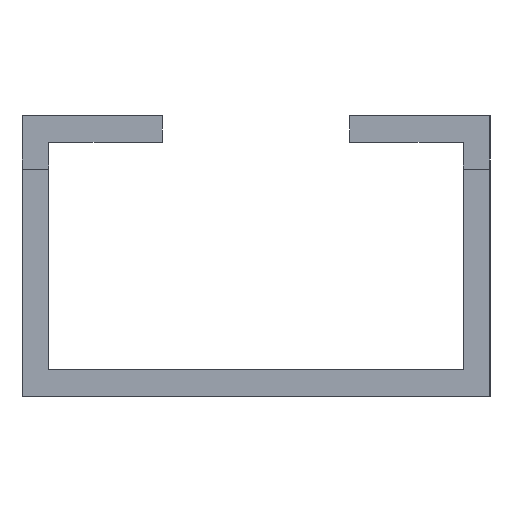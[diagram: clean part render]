
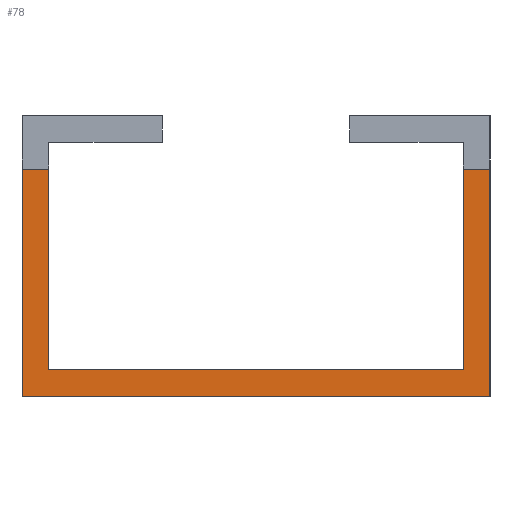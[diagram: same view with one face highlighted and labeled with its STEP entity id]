
A CAD part, left-side view. The second image highlights one B-rep face of the part: STEP entity #78.
In plain terms, the highlighted planar face has unit normal (-1, 0, 0).
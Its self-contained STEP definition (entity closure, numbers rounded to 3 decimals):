
#78 = ADVANCED_FACE( '', ( #155 ), #156, .F. );
#155 = FACE_OUTER_BOUND( '', #228, .T. );
#156 = PLANE( '', #229 );
#228 = EDGE_LOOP( '', ( #395, #396, #397, #398, #399, #400, #401, #402 ) );
#229 = AXIS2_PLACEMENT_3D( '', #403, #404, #405 );
#395 = ORIENTED_EDGE( '', *, *, #481, .F. );
#396 = ORIENTED_EDGE( '', *, *, #527, .F. );
#397 = ORIENTED_EDGE( '', *, *, #520, .F. );
#398 = ORIENTED_EDGE( '', *, *, #488, .F. );
#399 = ORIENTED_EDGE( '', *, *, #518, .F. );
#400 = ORIENTED_EDGE( '', *, *, #528, .F. );
#401 = ORIENTED_EDGE( '', *, *, #492, .F. );
#402 = ORIENTED_EDGE( '', *, *, #503, .F. );
#403 = CARTESIAN_POINT( '', ( -541., 0., 0. ) );
#404 = DIRECTION( '', ( 1., 0., 0. ) );
#405 = DIRECTION( '', ( 0., 0., -1. ) );
#481 = EDGE_CURVE( '', #581, #583, #584, .T. );
#488 = EDGE_CURVE( '', #593, #595, #596, .T. );
#492 = EDGE_CURVE( '', #601, #602, #603, .T. );
#503 = EDGE_CURVE( '', #583, #601, #619, .T. );
#518 = EDGE_CURVE( '', #636, #593, #638, .T. );
#520 = EDGE_CURVE( '', #595, #640, #641, .T. );
#527 = EDGE_CURVE( '', #640, #581, #649, .T. );
#528 = EDGE_CURVE( '', #602, #636, #650, .T. );
#581 = VERTEX_POINT( '', #723 );
#583 = VERTEX_POINT( '', #726 );
#584 = LINE( '', #727, #728 );
#593 = VERTEX_POINT( '', #741 );
#595 = VERTEX_POINT( '', #744 );
#596 = LINE( '', #745, #746 );
#601 = VERTEX_POINT( '', #753 );
#602 = VERTEX_POINT( '', #754 );
#603 = LINE( '', #755, #756 );
#619 = LINE( '', #780, #781 );
#636 = VERTEX_POINT( '', #807 );
#638 = LINE( '', #810, #811 );
#640 = VERTEX_POINT( '', #813 );
#641 = LINE( '', #814, #815 );
#649 = LINE( '', #827, #828 );
#650 = LINE( '', #829, #830 );
#723 = CARTESIAN_POINT( '', ( -541., 17.5, 17. ) );
#726 = CARTESIAN_POINT( '', ( -541., 15.5, 17. ) );
#727 = CARTESIAN_POINT( '', ( -541., 0., 17. ) );
#728 = VECTOR( '', #861, 1000. );
#741 = CARTESIAN_POINT( '', ( -541., -17.5, 17. ) );
#744 = CARTESIAN_POINT( '', ( -541., -17.5, 0. ) );
#745 = CARTESIAN_POINT( '', ( -541., -17.5, 21. ) );
#746 = VECTOR( '', #867, 1000. );
#753 = CARTESIAN_POINT( '', ( -541., 15.5, 2. ) );
#754 = CARTESIAN_POINT( '', ( -541., -15.5, 2. ) );
#755 = CARTESIAN_POINT( '', ( -541., 15.5, 2. ) );
#756 = VECTOR( '', #870, 1000. );
#780 = CARTESIAN_POINT( '', ( -541., 15.5, 19. ) );
#781 = VECTOR( '', #879, 1000. );
#807 = CARTESIAN_POINT( '', ( -541., -15.5, 17. ) );
#810 = CARTESIAN_POINT( '', ( -541., 0., 17. ) );
#811 = VECTOR( '', #890, 1000. );
#813 = CARTESIAN_POINT( '', ( -541., 17.5, 0. ) );
#814 = CARTESIAN_POINT( '', ( -541., -17.5, 0. ) );
#815 = VECTOR( '', #891, 1000. );
#827 = CARTESIAN_POINT( '', ( -541., 17.5, 0. ) );
#828 = VECTOR( '', #896, 1000. );
#829 = CARTESIAN_POINT( '', ( -541., -15.5, 2. ) );
#830 = VECTOR( '', #897, 1000. );
#861 = DIRECTION( '', ( 0., -1., 0. ) );
#867 = DIRECTION( '', ( 0., 0., -1. ) );
#870 = DIRECTION( '', ( 0., -1., 0. ) );
#879 = DIRECTION( '', ( 0., 0., -1. ) );
#890 = DIRECTION( '', ( 0., -1., 0. ) );
#891 = DIRECTION( '', ( 0., 1., 0. ) );
#896 = DIRECTION( '', ( 0., 0., 1. ) );
#897 = DIRECTION( '', ( 0., 0., 1. ) );
